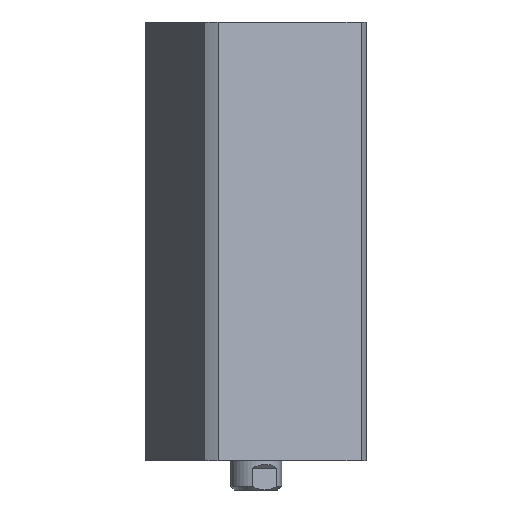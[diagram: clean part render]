
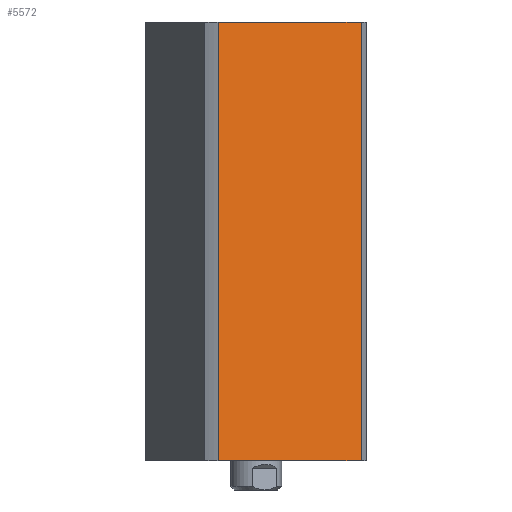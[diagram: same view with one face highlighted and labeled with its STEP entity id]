
A CAD part, left-side view. The second image highlights one B-rep face of the part: STEP entity #5572.
In plain terms, the highlighted planar face has unit normal (-0.924, -0.383, 0) as drawn and (1, 0, 0) by its records, which use the part's own axes.
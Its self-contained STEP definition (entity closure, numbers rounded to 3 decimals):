
#64 = CARTESIAN_POINT ( 'NONE',  ( 24., 21.166, 0. ) ) ;
#120 = ORIENTED_EDGE ( 'NONE', *, *, #1321, .F. ) ;
#254 = CARTESIAN_POINT ( 'NONE',  ( 24., 21.166, 120. ) ) ;
#527 = AXIS2_PLACEMENT_3D ( 'NONE', #1200, #5548, #1827 ) ;
#749 = EDGE_CURVE ( 'NONE', #3819, #7855, #7080, .T. ) ;
#901 = CARTESIAN_POINT ( 'NONE',  ( 24., -21.166, -480. ) ) ;
#999 = DIRECTION ( 'NONE',  ( 0., 0., 1. ) ) ;
#1145 = CARTESIAN_POINT ( 'NONE',  ( 24., -21.166, 120. ) ) ;
#1194 = VECTOR ( 'NONE', #7651, 1000. ) ;
#1200 = CARTESIAN_POINT ( 'NONE',  ( 24., 24., 120. ) ) ;
#1321 = EDGE_CURVE ( 'NONE', #7855, #5313, #8023, .T. ) ;
#1377 = CARTESIAN_POINT ( 'NONE',  ( 24., 24., 0. ) ) ;
#1537 = LINE ( 'NONE', #1377, #6306 ) ;
#1827 = DIRECTION ( 'NONE',  ( 0., -1., 0. ) ) ;
#2189 = ORIENTED_EDGE ( 'NONE', *, *, #749, .F. ) ;
#2634 = CARTESIAN_POINT ( 'NONE',  ( 24., 24., 120. ) ) ;
#2674 = LINE ( 'NONE', #3286, #1194 ) ;
#2813 = CARTESIAN_POINT ( 'NONE',  ( 24., -21.166, 0. ) ) ;
#3286 = CARTESIAN_POINT ( 'NONE',  ( 24., 21.166, -480. ) ) ;
#3543 = VECTOR ( 'NONE', #999, 1000. ) ;
#3733 = EDGE_CURVE ( 'NONE', #3819, #7140, #1537, .T. ) ;
#3790 = EDGE_LOOP ( 'NONE', ( #2189, #4627, #7634, #120 ) ) ;
#3819 = VERTEX_POINT ( 'NONE', #2813 ) ;
#4627 = ORIENTED_EDGE ( 'NONE', *, *, #3733, .T. ) ;
#4771 = FACE_OUTER_BOUND ( 'NONE', #3790, .T. ) ;
#5088 = DIRECTION ( 'NONE',  ( 0., 1., 0. ) ) ;
#5133 = EDGE_CURVE ( 'NONE', #5313, #7140, #2674, .T. ) ;
#5313 = VERTEX_POINT ( 'NONE', #254 ) ;
#5548 = DIRECTION ( 'NONE',  ( -1., 0., 0. ) ) ;
#5572 = ADVANCED_FACE ( 'NONE', ( #4771 ), #6748, .F. ) ;
#6306 = VECTOR ( 'NONE', #5088, 1000. ) ;
#6567 = VECTOR ( 'NONE', #7579, 1000. ) ;
#6748 = PLANE ( 'NONE',  #527 ) ;
#7080 = LINE ( 'NONE', #901, #3543 ) ;
#7140 = VERTEX_POINT ( 'NONE', #64 ) ;
#7579 = DIRECTION ( 'NONE',  ( 0., 1., 0. ) ) ;
#7634 = ORIENTED_EDGE ( 'NONE', *, *, #5133, .F. ) ;
#7651 = DIRECTION ( 'NONE',  ( 0., 0., -1. ) ) ;
#7855 = VERTEX_POINT ( 'NONE', #1145 ) ;
#8023 = LINE ( 'NONE', #2634, #6567 ) ;
